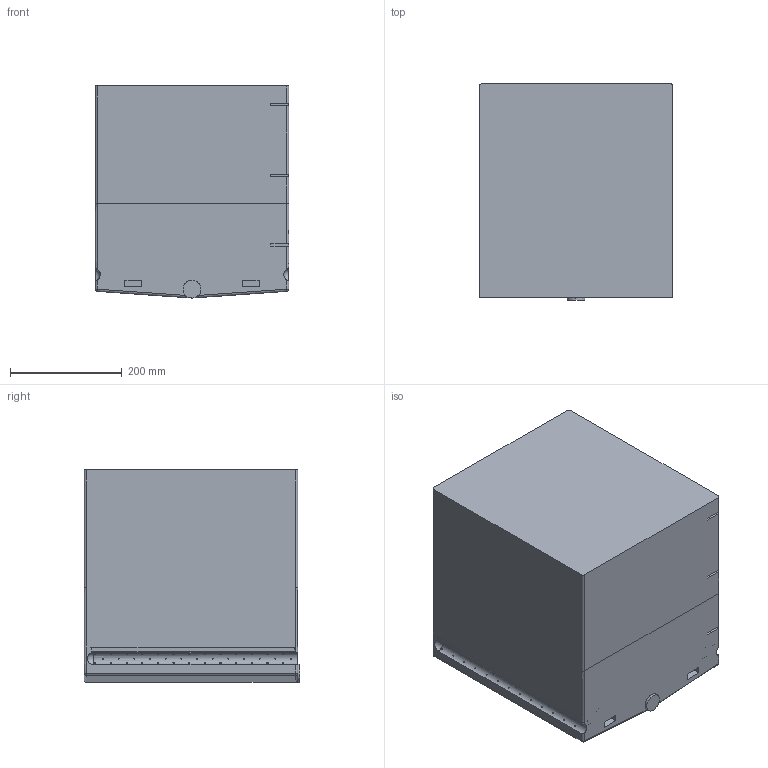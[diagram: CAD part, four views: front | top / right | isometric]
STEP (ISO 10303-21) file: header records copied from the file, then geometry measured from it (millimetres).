
FILE_DESCRIPTION(('STEP AP214'),'1');
FILE_NAME('simplified_part.stp','2020-03-06T09:53:24',(' '),(' '),'Spatial InterOp 3D',' ',' ');
FILE_SCHEMA(('AUTOMOTIVE_DESIGN { 1 0 10303 214 1 1 1 1 }'));
Length unit declared in the file: metre
Products named in the file (2): simplified_part; Component1
Assembly tree (1 placements, depth 2):
  simplified_part
    Component1
Bounding box: 346 x 386 x 379.3 mm (x, y, z)
Volume: 30511357 mm3; surface area: 1620432.8 mm2
Topology: 1 solids, 1 shells, 569 faces, 1653 edges, 1142 vertices
Faces by surface type: cylinder 248, plane 228, bspline 87, sphere 6
Entity records: 46425 total; most frequent: CARTESIAN_POINT 27745, ORIENTED_EDGE 3280, DIRECTION 2343, EDGE_CURVE 1640, VERTEX_POINT 1142, AXIS2_PLACEMENT_3D 806, LINE 731, VECTOR 731
